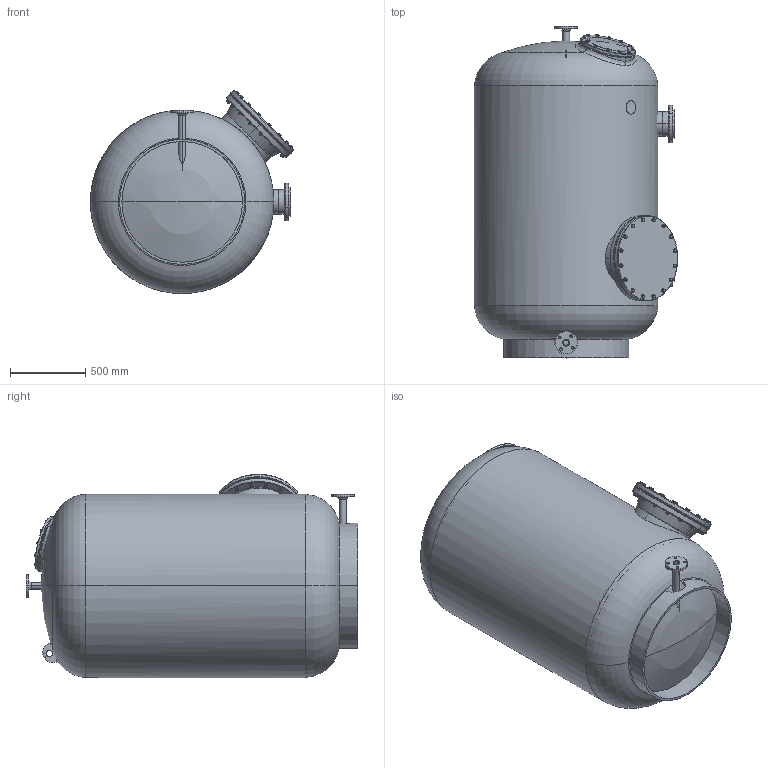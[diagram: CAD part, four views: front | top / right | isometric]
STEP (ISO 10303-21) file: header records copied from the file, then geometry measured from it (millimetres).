
FILE_DESCRIPTION (( 'STEP AP214' ), '1' );
FILE_NAME ('adriatic120c_big.STEP', '2020-11-04T13:40:37', ( '' ), ( '' ), 'SwSTEP 2.0', 'SolidWorks 2019', '' );
FILE_SCHEMA (( 'AUTOMOTIVE_DESIGN' ));
Length unit declared in the file: millimetre
Products named in the file (1): adriatic120c_big
Bounding box: 1346.29 x 2199.65 x 1345.95 mm (x, y, z)
Surface area: 20620405.9 mm2 (no closed solid volume)
Topology: 0 solids, 116 shells, 1763 faces, 3925 edges, 2404 vertices
Faces by surface type: cone 571, cylinder 561, plane 530, torus 67, bspline 20, sphere 14
Entity records: 99429 total; most frequent: CARTESIAN_POINT 41056, ORIENTED_EDGE 7730, DIRECTION 7658, EDGE_CURVE 3889, AXIS2_PLACEMENT_3D 3298, VERTEX_POINT 2400, EDGE_LOOP 2123, UNCERTAINTY_MEASURE_WITH_UNIT 1869
